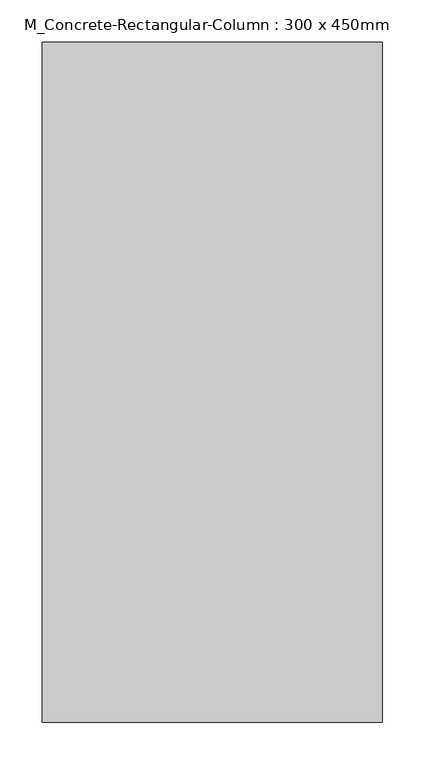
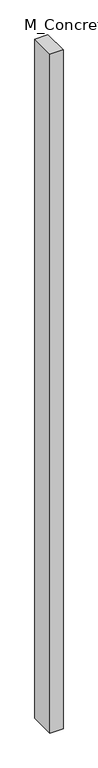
"""IFC4 building model written with IfcOpenShell, lengths in millimetres: column geometry, M_Concrete-Rectangular-Column : 300 x 450mm."""

from ifc_helpers import new_model, si_unit, frame, origin, place, context, project, spatial, polyline, outline, extrude, source, transform, mapped, element, save


def m_concrete_rectangular_column_300_x_450mm_54aa0f4e(model_context):
    return source(origin(), model_context, "Body", "SweptSolid", [
        extrude(outline(polyline([(200.0, 400.0), (200.0, -400.0), (-200.0, -400.0), (-200.0, 400.0), (200.0, 400.0)])), frame((0.0, 0.0, -17500.0), z_axis=(0.0, 0.0, 1.0), x_axis=(1.0, 0.0, 0.0)), (0.0, 0.0, 1.0), 22000.0),
    ])


if __name__ == "__main__":
    model = new_model("IFC4")
    model_context = context("Model", 3, world=origin())
    ifc_project = project(units=[si_unit("LENGTHUNIT", "METRE", prefix="MILLI")], contexts=[model_context])
    site = spatial("IfcSite", under=ifc_project)
    building = spatial("IfcBuilding", under=site)
    placement = place(None, origin())
    m_concrete_rectangular_column_300_x_450mm_shape = m_concrete_rectangular_column_300_x_450mm_54aa0f4e(model_context)
    element("IfcColumn", 1, ObjectType="M_Concrete-Rectangular-Column : 300 x 450mm", at=placement, inside=building, context=model_context, shape_type="MappedRepresentation", body=[
        mapped(m_concrete_rectangular_column_300_x_450mm_shape, transform((0.0, 0.0, 0.0), x_axis=(1.0, 0.0, 0.0), y_axis=(0.0, 1.0, 0.0), z_axis=(0.0, 0.0, 1.0))),
    ])
    save(model, "model.ifc")
